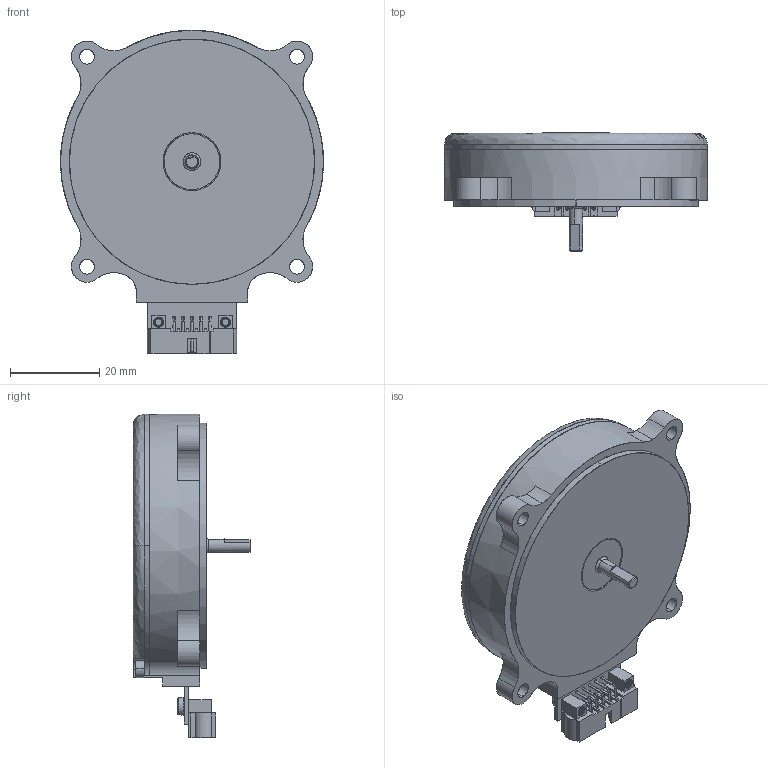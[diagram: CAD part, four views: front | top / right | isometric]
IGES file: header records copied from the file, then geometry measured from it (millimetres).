
Start section: SolidWorks IGES file using analytic representation for surfaces
Global section: file name: C:\Zettlex Data\Mechanical Drawings\1615\58mm Screw Mount 3.000mm Solid RC1 Rev 1-0.IGS; native system: SolidWorks 2017; preprocessor: SolidWorks 2017; author: Istvan; date: 180126.103152; units: millimetre
Bounding box: 59 x 26.42 x 72.6 mm (x, y, z)
Surface area: 17449 mm2 (no closed solid volume)
Topology: 0 solids, 0 shells, 1088 faces, 11837 edges, 11825 vertices
Faces by surface type: bspline 651, revolution 437
